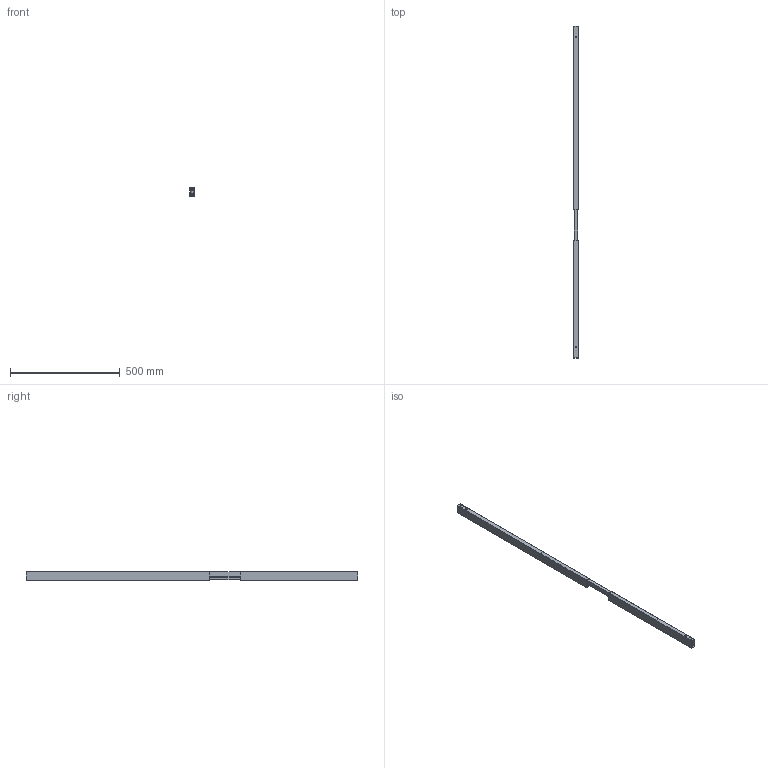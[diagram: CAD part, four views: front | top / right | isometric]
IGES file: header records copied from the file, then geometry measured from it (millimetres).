
Start section: Data from Parasolid IGES Translator 20.0.26, Copyright(c) 2006 Siemens P LM Software. All Rights Reserved.
Global section: file name: 46021.igs; native system: By Siemens PLM Incorporated; preprocessor: XPlus GENERIC/IGES 20.0.26; author: Noname; organization: Noname; date: 20210125.172458; units: millimetre
Bounding box: 20 x 1510 x 40 mm (x, y, z)
Surface area: 435553.9 mm2 (no closed solid volume)
Topology: 0 solids, 0 shells, 71 faces, 390 edges, 320 vertices
Faces by surface type: revolution 37, extrusion 34
